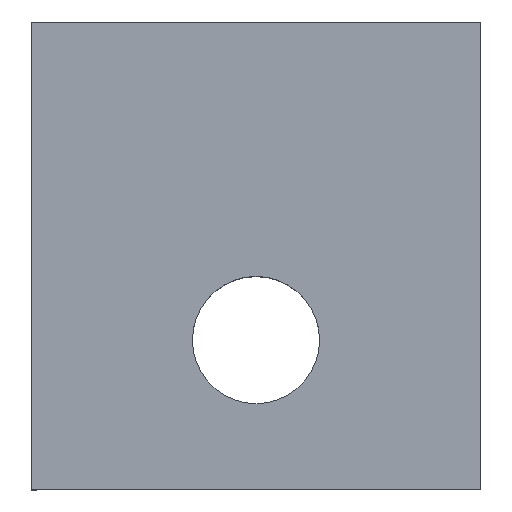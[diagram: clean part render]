
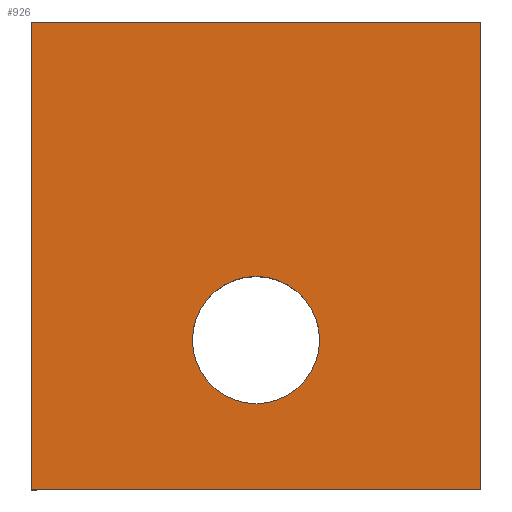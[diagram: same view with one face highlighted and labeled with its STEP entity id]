
A CAD part, top view. The second image highlights one B-rep face of the part: STEP entity #926.
In plain terms, the highlighted planar face has unit normal (0, 0, 1).
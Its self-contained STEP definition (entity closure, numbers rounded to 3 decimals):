
#21 = EDGE_CURVE('',#22,#24,#26,.T.);
#22 = VERTEX_POINT('',#23);
#23 = CARTESIAN_POINT('',(8.,12.5,145.));
#24 = VERTEX_POINT('',#25);
#25 = CARTESIAN_POINT('',(8.,0.,145.));
#26 = SURFACE_CURVE('',#27,(#31,#43),.PCURVE_S1.);
#27 = LINE('',#28,#29);
#28 = CARTESIAN_POINT('',(8.,8.5,145.));
#29 = VECTOR('',#30,1.);
#30 = DIRECTION('',(0.,-1.,0.));
#31 = PCURVE('',#32,#37);
#32 = PLANE('',#33);
#33 = AXIS2_PLACEMENT_3D('',#34,#35,#36);
#34 = CARTESIAN_POINT('',(8.,8.5,125.));
#35 = DIRECTION('',(1.,0.,0.));
#36 = DIRECTION('',(0.,0.,1.));
#37 = DEFINITIONAL_REPRESENTATION('',(#38),#42);
#38 = LINE('',#39,#40);
#39 = CARTESIAN_POINT('',(20.,0.));
#40 = VECTOR('',#41,1.);
#41 = DIRECTION('',(0.,1.));
#42 = ( GEOMETRIC_REPRESENTATION_CONTEXT(2) 
PARAMETRIC_REPRESENTATION_CONTEXT() REPRESENTATION_CONTEXT('2D SPACE',''
  ) );
#43 = PCURVE('',#44,#49);
#44 = PLANE('',#45);
#45 = AXIS2_PLACEMENT_3D('',#46,#47,#48);
#46 = CARTESIAN_POINT('',(8.,8.5,145.));
#47 = DIRECTION('',(0.,0.,1.));
#48 = DIRECTION('',(1.,0.,0.));
#49 = DEFINITIONAL_REPRESENTATION('',(#50),#54);
#50 = LINE('',#51,#52);
#51 = CARTESIAN_POINT('',(0.,0.));
#52 = VECTOR('',#53,1.);
#53 = DIRECTION('',(0.,-1.));
#54 = ( GEOMETRIC_REPRESENTATION_CONTEXT(2) 
PARAMETRIC_REPRESENTATION_CONTEXT() REPRESENTATION_CONTEXT('2D SPACE',''
  ) );
#72 = PLANE('',#73);
#73 = AXIS2_PLACEMENT_3D('',#74,#75,#76);
#74 = CARTESIAN_POINT('',(8.,12.5,125.));
#75 = DIRECTION('',(0.,1.,0.));
#76 = DIRECTION('',(0.,0.,1.));
#182 = PLANE('',#183);
#183 = AXIS2_PLACEMENT_3D('',#184,#185,#186);
#184 = CARTESIAN_POINT('',(8.,0.,141.));
#185 = DIRECTION('',(0.,1.,0.));
#186 = DIRECTION('',(0.,0.,1.));
#370 = PLANE('',#371);
#371 = AXIS2_PLACEMENT_3D('',#372,#373,#374);
#372 = CARTESIAN_POINT('',(20.,8.5,125.));
#373 = DIRECTION('',(1.,0.,0.));
#374 = DIRECTION('',(0.,0.,1.));
#450 = VERTEX_POINT('',#451);
#451 = CARTESIAN_POINT('',(20.,12.5,145.));
#494 = EDGE_CURVE('',#22,#450,#495,.T.);
#495 = SURFACE_CURVE('',#496,(#500,#507),.PCURVE_S1.);
#496 = LINE('',#497,#498);
#497 = CARTESIAN_POINT('',(8.,12.5,145.));
#498 = VECTOR('',#499,1.);
#499 = DIRECTION('',(1.,0.,0.));
#500 = PCURVE('',#72,#501);
#501 = DEFINITIONAL_REPRESENTATION('',(#502),#506);
#502 = LINE('',#503,#504);
#503 = CARTESIAN_POINT('',(20.,0.));
#504 = VECTOR('',#505,1.);
#505 = DIRECTION('',(0.,1.));
#506 = ( GEOMETRIC_REPRESENTATION_CONTEXT(2) 
PARAMETRIC_REPRESENTATION_CONTEXT() REPRESENTATION_CONTEXT('2D SPACE',''
  ) );
#507 = PCURVE('',#44,#508);
#508 = DEFINITIONAL_REPRESENTATION('',(#509),#513);
#509 = LINE('',#510,#511);
#510 = CARTESIAN_POINT('',(0.,4.));
#511 = VECTOR('',#512,1.);
#512 = DIRECTION('',(1.,0.));
#513 = ( GEOMETRIC_REPRESENTATION_CONTEXT(2) 
PARAMETRIC_REPRESENTATION_CONTEXT() REPRESENTATION_CONTEXT('2D SPACE',''
  ) );
#597 = EDGE_CURVE('',#598,#450,#600,.T.);
#598 = VERTEX_POINT('',#599);
#599 = CARTESIAN_POINT('',(20.,0.,145.));
#600 = SURFACE_CURVE('',#601,(#605,#612),.PCURVE_S1.);
#601 = LINE('',#602,#603);
#602 = CARTESIAN_POINT('',(20.,8.5,145.));
#603 = VECTOR('',#604,1.);
#604 = DIRECTION('',(0.,1.,0.));
#605 = PCURVE('',#370,#606);
#606 = DEFINITIONAL_REPRESENTATION('',(#607),#611);
#607 = LINE('',#608,#609);
#608 = CARTESIAN_POINT('',(20.,0.));
#609 = VECTOR('',#610,1.);
#610 = DIRECTION('',(0.,-1.));
#611 = ( GEOMETRIC_REPRESENTATION_CONTEXT(2) 
PARAMETRIC_REPRESENTATION_CONTEXT() REPRESENTATION_CONTEXT('2D SPACE',''
  ) );
#612 = PCURVE('',#44,#613);
#613 = DEFINITIONAL_REPRESENTATION('',(#614),#618);
#614 = LINE('',#615,#616);
#615 = CARTESIAN_POINT('',(12.,0.));
#616 = VECTOR('',#617,1.);
#617 = DIRECTION('',(0.,1.));
#618 = ( GEOMETRIC_REPRESENTATION_CONTEXT(2) 
PARAMETRIC_REPRESENTATION_CONTEXT() REPRESENTATION_CONTEXT('2D SPACE',''
  ) );
#857 = CYLINDRICAL_SURFACE('',#858,1.7);
#858 = AXIS2_PLACEMENT_3D('',#859,#860,#861);
#859 = CARTESIAN_POINT('',(14.,4.,141.));
#860 = DIRECTION('',(0.,0.,1.));
#861 = DIRECTION('',(1.,0.,0.));
#926 = ADVANCED_FACE('',(#927,#953),#44,.T.);
#927 = FACE_BOUND('',#928,.T.);
#928 = EDGE_LOOP('',(#929,#930,#951,#952));
#929 = ORIENTED_EDGE('',*,*,#21,.T.);
#930 = ORIENTED_EDGE('',*,*,#931,.T.);
#931 = EDGE_CURVE('',#24,#598,#932,.T.);
#932 = SURFACE_CURVE('',#933,(#937,#944),.PCURVE_S1.);
#933 = LINE('',#934,#935);
#934 = CARTESIAN_POINT('',(8.,0.,145.));
#935 = VECTOR('',#936,1.);
#936 = DIRECTION('',(1.,0.,0.));
#937 = PCURVE('',#44,#938);
#938 = DEFINITIONAL_REPRESENTATION('',(#939),#943);
#939 = LINE('',#940,#941);
#940 = CARTESIAN_POINT('',(0.,-8.5));
#941 = VECTOR('',#942,1.);
#942 = DIRECTION('',(1.,0.));
#943 = ( GEOMETRIC_REPRESENTATION_CONTEXT(2) 
PARAMETRIC_REPRESENTATION_CONTEXT() REPRESENTATION_CONTEXT('2D SPACE',''
  ) );
#944 = PCURVE('',#182,#945);
#945 = DEFINITIONAL_REPRESENTATION('',(#946),#950);
#946 = LINE('',#947,#948);
#947 = CARTESIAN_POINT('',(4.,0.));
#948 = VECTOR('',#949,1.);
#949 = DIRECTION('',(0.,1.));
#950 = ( GEOMETRIC_REPRESENTATION_CONTEXT(2) 
PARAMETRIC_REPRESENTATION_CONTEXT() REPRESENTATION_CONTEXT('2D SPACE',''
  ) );
#951 = ORIENTED_EDGE('',*,*,#597,.T.);
#952 = ORIENTED_EDGE('',*,*,#494,.F.);
#953 = FACE_BOUND('',#954,.T.);
#954 = EDGE_LOOP('',(#955));
#955 = ORIENTED_EDGE('',*,*,#956,.F.);
#956 = EDGE_CURVE('',#957,#957,#959,.T.);
#957 = VERTEX_POINT('',#958);
#958 = CARTESIAN_POINT('',(15.7,4.,145.));
#959 = SURFACE_CURVE('',#960,(#965,#972),.PCURVE_S1.);
#960 = CIRCLE('',#961,1.7);
#961 = AXIS2_PLACEMENT_3D('',#962,#963,#964);
#962 = CARTESIAN_POINT('',(14.,4.,145.));
#963 = DIRECTION('',(0.,0.,1.));
#964 = DIRECTION('',(1.,0.,0.));
#965 = PCURVE('',#44,#966);
#966 = DEFINITIONAL_REPRESENTATION('',(#967),#971);
#967 = CIRCLE('',#968,1.7);
#968 = AXIS2_PLACEMENT_2D('',#969,#970);
#969 = CARTESIAN_POINT('',(6.,-4.5));
#970 = DIRECTION('',(1.,0.));
#971 = ( GEOMETRIC_REPRESENTATION_CONTEXT(2) 
PARAMETRIC_REPRESENTATION_CONTEXT() REPRESENTATION_CONTEXT('2D SPACE',''
  ) );
#972 = PCURVE('',#857,#973);
#973 = DEFINITIONAL_REPRESENTATION('',(#974),#978);
#974 = LINE('',#975,#976);
#975 = CARTESIAN_POINT('',(0.,4.));
#976 = VECTOR('',#977,1.);
#977 = DIRECTION('',(1.,0.));
#978 = ( GEOMETRIC_REPRESENTATION_CONTEXT(2) 
PARAMETRIC_REPRESENTATION_CONTEXT() REPRESENTATION_CONTEXT('2D SPACE',''
  ) );
